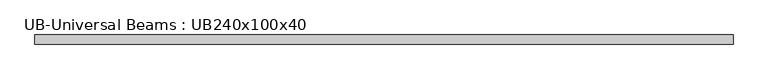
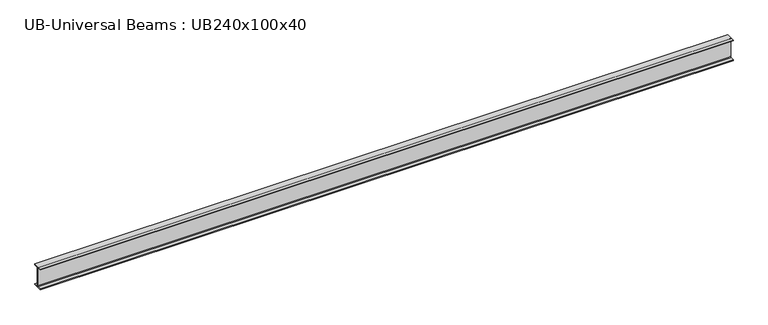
"""IFC4 building model written with IfcOpenShell, lengths in millimetres: beam geometry, UB-Universal Beams : UB240x100x40."""

from ifc_helpers import new_model, si_unit, point, frame, frame_2d, origin, place, context, project, spatial, polyline, circle_curve, trimmed, segment, composite_curve, outline, extrude, source, transform, mapped, element, save


def ub_universal_beams_ub240x100x40_5ad6f9c0(model_context):
    return source(origin(), model_context, "Body", "SweptSolid", [
        extrude(outline(composite_curve([segment(polyline([(-50.0, -109.8), (-11.9, -109.8)]), True, "CONTINUOUS"), segment(trimmed(circle_curve(frame_2d((-11.9, -100.9)), 8.9), [point((-11.9, -109.8))], [point((-3.0, -100.9))], True, "CARTESIAN"), True, "CONTINUOUS"), segment(polyline([(-3.0, -100.9), (-3.0, 100.9)]), True, "CONTINUOUS"), segment(trimmed(circle_curve(frame_2d((-11.9, 100.9)), 8.9), [point((-3.0, 100.9))], [point((-11.9, 109.8))], True, "CARTESIAN"), True, "CONTINUOUS"), segment(polyline([(-11.9, 109.8), (-50.0, 109.8), (-50.0, 120.0), (50.0, 120.0), (50.0, 109.8), (11.9, 109.8)]), True, "CONTINUOUS"), segment(trimmed(circle_curve(frame_2d((11.9, 100.9)), 8.9), [point((11.9, 109.8))], [point((3.0, 100.9))], True, "CARTESIAN"), True, "CONTINUOUS"), segment(polyline([(3.0, 100.9), (3.0, -100.9)]), True, "CONTINUOUS"), segment(trimmed(circle_curve(frame_2d((11.9, -100.9)), 8.9), [point((3.0, -100.9))], [point((11.9, -109.8))], True, "CARTESIAN"), True, "CONTINUOUS"), segment(polyline([(11.9, -109.8), (50.0, -109.8), (50.0, -120.0), (-50.0, -120.0), (-50.0, -109.8)]), True, "CONTINUOUS")], self_intersect=False)), frame((-3822.3, 0.0, 0.0), z_axis=(1.0, 0.0, 0.0), x_axis=(0.0, 1.0, 0.0)), (0.0, 0.0, 1.0), 7649.6),
    ])


if __name__ == "__main__":
    model = new_model("IFC4")
    model_context = context("Model", 3, world=origin())
    ifc_project = project(units=[si_unit("LENGTHUNIT", "METRE", prefix="MILLI")], contexts=[model_context])
    site = spatial("IfcSite", under=ifc_project)
    building = spatial("IfcBuilding", under=site)
    placement = place(None, origin())
    ub_universal_beams_ub240x100x40_shape = ub_universal_beams_ub240x100x40_5ad6f9c0(model_context)
    element("IfcBeam", 1, ObjectType="UB-Universal Beams : UB240x100x40", at=placement, inside=building, context=model_context, shape_type="MappedRepresentation", body=[
        mapped(ub_universal_beams_ub240x100x40_shape, transform((0.0, 0.0, 0.0), x_axis=(1.0, 0.0, 0.0), y_axis=(0.0, 1.0, 0.0), z_axis=(0.0, 0.0, 1.0))),
    ])
    save(model, "model.ifc")
